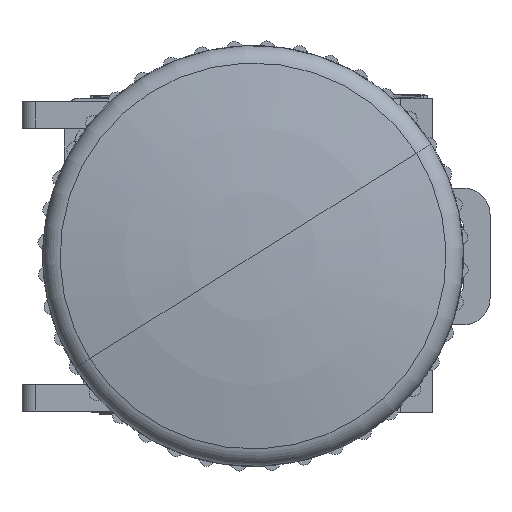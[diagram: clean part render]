
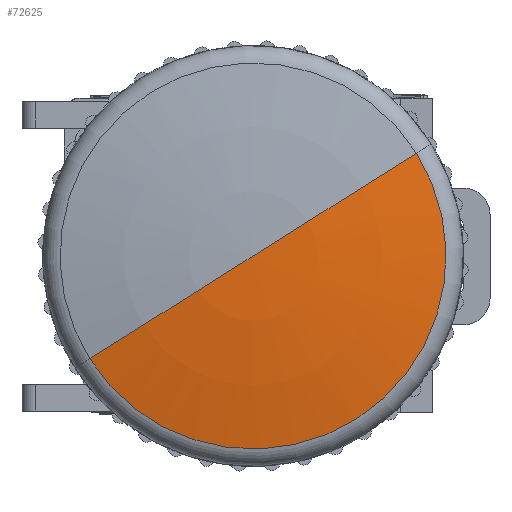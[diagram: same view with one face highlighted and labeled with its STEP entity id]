
A CAD part, front view. The second image highlights one B-rep face of the part: STEP entity #72625.
In plain terms, the highlighted toroidal (fillet/blend) face has major radius 0.607 mm and minor radius 100 mm.
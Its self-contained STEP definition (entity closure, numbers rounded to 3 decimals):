
#2600 = ORIENTED_EDGE ( 'NONE', *, *, #60380, .T. ) ;
#6424 = CIRCLE ( 'NONE', #69416, 100. ) ;
#10782 = VERTEX_POINT ( 'NONE', #63036 ) ;
#12770 = DIRECTION ( 'NONE',  ( 0., 1., 0. ) ) ;
#14622 = CIRCLE ( 'NONE', #28930, 100. ) ;
#15981 = VERTEX_POINT ( 'NONE', #60926 ) ;
#16689 = EDGE_CURVE ( 'NONE', #15981, #41703, #21081, .T. ) ;
#17376 = AXIS2_PLACEMENT_3D ( 'NONE', #49819, #53992, #12770 ) ;
#17643 = DIRECTION ( 'NONE',  ( 0., 0., 1. ) ) ;
#18214 = DIRECTION ( 'NONE',  ( -1., 0., 0. ) ) ;
#20730 = EDGE_CURVE ( 'NONE', #41703, #10782, #6424, .T. ) ;
#21081 = CIRCLE ( 'NONE', #63538, 18.355 ) ;
#24036 = CARTESIAN_POINT ( 'NONE',  ( -93.601, -0.607, 0. ) ) ;
#27662 = TOROIDAL_SURFACE ( 'NONE', #17376, 0.607, 100. ) ;
#28930 = AXIS2_PLACEMENT_3D ( 'NONE', #36317, #47660, #18214 ) ;
#36317 = CARTESIAN_POINT ( 'NONE',  ( -93.601, 0.607, 0. ) ) ;
#41703 = VERTEX_POINT ( 'NONE', #70331 ) ;
#42567 = DIRECTION ( 'NONE',  ( 0., 0., 1. ) ) ;
#43388 = ORIENTED_EDGE ( 'NONE', *, *, #16689, .F. ) ;
#47660 = DIRECTION ( 'NONE',  ( 0., 0., -1. ) ) ;
#49196 = EDGE_LOOP ( 'NONE', ( #59971, #43388, #2600 ) ) ;
#49819 = CARTESIAN_POINT ( 'NONE',  ( -93.601, 0., 0. ) ) ;
#53992 = DIRECTION ( 'NONE',  ( 1., 0., 0. ) ) ;
#59971 = ORIENTED_EDGE ( 'NONE', *, *, #20730, .F. ) ;
#60380 = EDGE_CURVE ( 'NONE', #15981, #10782, #14622, .T. ) ;
#60926 = CARTESIAN_POINT ( 'NONE',  ( 4.811, 18.355, 0. ) ) ;
#62306 = FACE_OUTER_BOUND ( 'NONE', #49196, .T. ) ;
#63036 = CARTESIAN_POINT ( 'NONE',  ( 6.397, 0., 0. ) ) ;
#63538 = AXIS2_PLACEMENT_3D ( 'NONE', #77667, #73203, #17643 ) ;
#66751 = DIRECTION ( 'NONE',  ( 0., -1., 0. ) ) ;
#69416 = AXIS2_PLACEMENT_3D ( 'NONE', #24036, #42567, #66751 ) ;
#70331 = CARTESIAN_POINT ( 'NONE',  ( 4.811, -18.355, 0. ) ) ;
#72625 = ADVANCED_FACE ( 'NONE', ( #62306 ), #27662, .T. ) ;
#73203 = DIRECTION ( 'NONE',  ( -1., 0., 0. ) ) ;
#77667 = CARTESIAN_POINT ( 'NONE',  ( 4.811, 0., 0. ) ) ;
